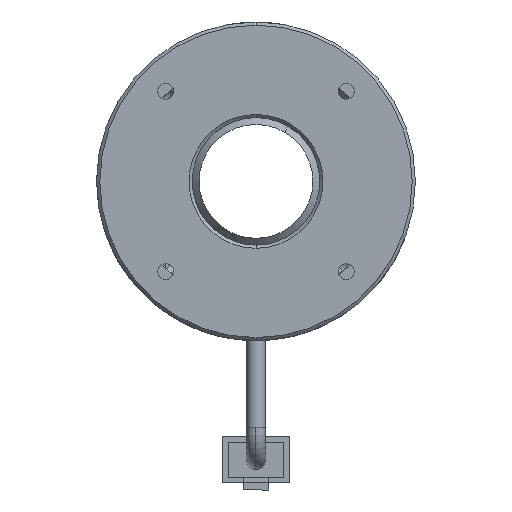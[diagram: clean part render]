
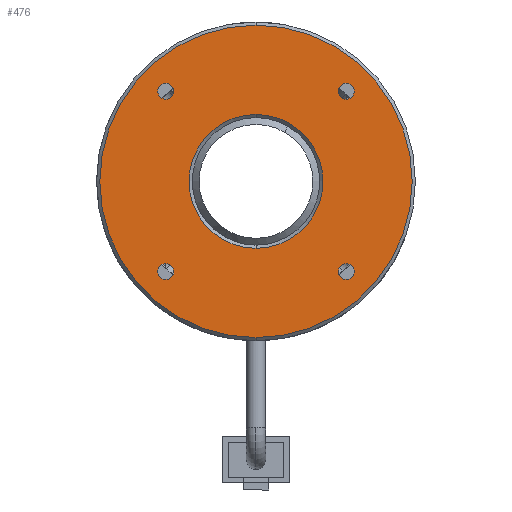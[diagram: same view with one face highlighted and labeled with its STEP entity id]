
A CAD part, front view. The second image highlights one B-rep face of the part: STEP entity #476.
In plain terms, the highlighted planar face has unit normal (0, -1, 0).
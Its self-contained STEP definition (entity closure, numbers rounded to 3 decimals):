
#56 = CARTESIAN_POINT ( 'NONE',  ( 14.142, 0., -14.142 ) ) ;
#191 = CARTESIAN_POINT ( 'NONE',  ( 0., 0., 0. ) ) ;
#246 = AXIS2_PLACEMENT_3D ( 'NONE', #9393, #1391, #7992 ) ;
#375 = AXIS2_PLACEMENT_3D ( 'NONE', #8117, #6556, #3749 ) ;
#403 = VERTEX_POINT ( 'NONE', #6155 ) ;
#476 = ADVANCED_FACE ( 'NONE', ( #9096, #6915, #3153, #7024, #7137, #3037 ), #2455, .F. ) ;
#527 = EDGE_LOOP ( 'NONE', ( #6062, #5166 ) ) ;
#541 = EDGE_CURVE ( 'NONE', #3250, #6567, #2721, .T. ) ;
#723 = EDGE_CURVE ( 'NONE', #403, #7242, #1722, .T. ) ;
#853 = CARTESIAN_POINT ( 'NONE',  ( 14.142, 0., -14.142 ) ) ;
#884 = DIRECTION ( 'NONE',  ( 0., 0., -1. ) ) ;
#957 = DIRECTION ( 'NONE',  ( 0., 0., 1. ) ) ;
#977 = DIRECTION ( 'NONE',  ( 0., -1., 0. ) ) ;
#1050 = CARTESIAN_POINT ( 'NONE',  ( -14.142, 0., 14.142 ) ) ;
#1061 = DIRECTION ( 'NONE',  ( 0., 0., -1. ) ) ;
#1278 = CIRCLE ( 'NONE', #3582, 10.5 ) ;
#1391 = DIRECTION ( 'NONE',  ( 0., -1., 0. ) ) ;
#1392 = CARTESIAN_POINT ( 'NONE',  ( 14.142, 0., 12.892 ) ) ;
#1404 = VERTEX_POINT ( 'NONE', #8314 ) ;
#1561 = CARTESIAN_POINT ( 'NONE',  ( 14.142, 0., -12.892 ) ) ;
#1574 = VERTEX_POINT ( 'NONE', #8534 ) ;
#1597 = CIRCLE ( 'NONE', #6235, 1.25 ) ;
#1600 = EDGE_LOOP ( 'NONE', ( #4186, #1640 ) ) ;
#1607 = AXIS2_PLACEMENT_3D ( 'NONE', #1746, #7517, #8268 ) ;
#1640 = ORIENTED_EDGE ( 'NONE', *, *, #5253, .T. ) ;
#1665 = CIRCLE ( 'NONE', #2184, 1.25 ) ;
#1722 = CIRCLE ( 'NONE', #5463, 24.5 ) ;
#1746 = CARTESIAN_POINT ( 'NONE',  ( 10., 0., 0. ) ) ;
#2184 = AXIS2_PLACEMENT_3D ( 'NONE', #853, #8180, #7378 ) ;
#2246 = EDGE_CURVE ( 'NONE', #4542, #4573, #5402, .T. ) ;
#2369 = CIRCLE ( 'NONE', #246, 1.25 ) ;
#2416 = DIRECTION ( 'NONE',  ( 0., 1., 0. ) ) ;
#2455 = PLANE ( 'NONE',  #1607 ) ;
#2576 = CARTESIAN_POINT ( 'NONE',  ( 14.142, 0., 14.142 ) ) ;
#2632 = ORIENTED_EDGE ( 'NONE', *, *, #3190, .F. ) ;
#2675 = ORIENTED_EDGE ( 'NONE', *, *, #6755, .F. ) ;
#2721 = CIRCLE ( 'NONE', #4486, 1.25 ) ;
#2784 = DIRECTION ( 'NONE',  ( 0., 0., 1. ) ) ;
#2786 = EDGE_LOOP ( 'NONE', ( #2632, #2675 ) ) ;
#2810 = DIRECTION ( 'NONE',  ( 0., -1., 0. ) ) ;
#2860 = EDGE_CURVE ( 'NONE', #6567, #3250, #9150, .T. ) ;
#3031 = DIRECTION ( 'NONE',  ( 0., -1., 0. ) ) ;
#3037 = FACE_BOUND ( 'NONE', #2786, .T. ) ;
#3153 = FACE_BOUND ( 'NONE', #4620, .T. ) ;
#3190 = EDGE_CURVE ( 'NONE', #9088, #3367, #1665, .T. ) ;
#3216 = CARTESIAN_POINT ( 'NONE',  ( -14.142, 0., -12.892 ) ) ;
#3230 = DIRECTION ( 'NONE',  ( 0., 0., -1. ) ) ;
#3250 = VERTEX_POINT ( 'NONE', #9129 ) ;
#3311 = CARTESIAN_POINT ( 'NONE',  ( 0., 0., 24.5 ) ) ;
#3367 = VERTEX_POINT ( 'NONE', #1561 ) ;
#3582 = AXIS2_PLACEMENT_3D ( 'NONE', #191, #5285, #957 ) ;
#3616 = CARTESIAN_POINT ( 'NONE',  ( 14.142, 0., -15.392 ) ) ;
#3653 = VERTEX_POINT ( 'NONE', #8857 ) ;
#3745 = CIRCLE ( 'NONE', #8436, 24.5 ) ;
#3749 = DIRECTION ( 'NONE',  ( 0., 0., -1. ) ) ;
#3797 = CARTESIAN_POINT ( 'NONE',  ( 0., 0., 0. ) ) ;
#3903 = CARTESIAN_POINT ( 'NONE',  ( -14.142, 0., -14.142 ) ) ;
#3935 = VERTEX_POINT ( 'NONE', #3216 ) ;
#3978 = CIRCLE ( 'NONE', #375, 1.25 ) ;
#3984 = DIRECTION ( 'NONE',  ( 0., 0., 1. ) ) ;
#4039 = EDGE_LOOP ( 'NONE', ( #9188, #7154 ) ) ;
#4074 = DIRECTION ( 'NONE',  ( 0., 0., -1. ) ) ;
#4186 = ORIENTED_EDGE ( 'NONE', *, *, #8036, .T. ) ;
#4196 = EDGE_CURVE ( 'NONE', #3935, #3653, #3978, .T. ) ;
#4214 = AXIS2_PLACEMENT_3D ( 'NONE', #3797, #2416, #3984 ) ;
#4346 = EDGE_LOOP ( 'NONE', ( #6099, #6734 ) ) ;
#4486 = AXIS2_PLACEMENT_3D ( 'NONE', #2576, #4749, #3230 ) ;
#4542 = VERTEX_POINT ( 'NONE', #7493 ) ;
#4573 = VERTEX_POINT ( 'NONE', #6691 ) ;
#4620 = EDGE_LOOP ( 'NONE', ( #7214, #7293 ) ) ;
#4728 = DIRECTION ( 'NONE',  ( 0., -1., 0. ) ) ;
#4749 = DIRECTION ( 'NONE',  ( 0., -1., 0. ) ) ;
#4844 = EDGE_CURVE ( 'NONE', #7242, #403, #3745, .T. ) ;
#5166 = ORIENTED_EDGE ( 'NONE', *, *, #723, .T. ) ;
#5253 = EDGE_CURVE ( 'NONE', #1404, #1574, #1278, .T. ) ;
#5285 = DIRECTION ( 'NONE',  ( 0., 1., 0. ) ) ;
#5402 = CIRCLE ( 'NONE', #7017, 1.25 ) ;
#5463 = AXIS2_PLACEMENT_3D ( 'NONE', #7188, #9395, #2784 ) ;
#5854 = AXIS2_PLACEMENT_3D ( 'NONE', #56, #2810, #884 ) ;
#6062 = ORIENTED_EDGE ( 'NONE', *, *, #4844, .T. ) ;
#6099 = ORIENTED_EDGE ( 'NONE', *, *, #6935, .F. ) ;
#6155 = CARTESIAN_POINT ( 'NONE',  ( 0., 0., -24.5 ) ) ;
#6235 = AXIS2_PLACEMENT_3D ( 'NONE', #3903, #4728, #1061 ) ;
#6556 = DIRECTION ( 'NONE',  ( 0., -1., 0. ) ) ;
#6567 = VERTEX_POINT ( 'NONE', #1392 ) ;
#6579 = CARTESIAN_POINT ( 'NONE',  ( 0., 0., 0. ) ) ;
#6691 = CARTESIAN_POINT ( 'NONE',  ( -14.142, 0., 15.392 ) ) ;
#6734 = ORIENTED_EDGE ( 'NONE', *, *, #4196, .F. ) ;
#6755 = EDGE_CURVE ( 'NONE', #3367, #9088, #8514, .T. ) ;
#6768 = DIRECTION ( 'NONE',  ( 0., 0., -1. ) ) ;
#6915 = FACE_BOUND ( 'NONE', #1600, .T. ) ;
#6935 = EDGE_CURVE ( 'NONE', #3653, #3935, #1597, .T. ) ;
#7017 = AXIS2_PLACEMENT_3D ( 'NONE', #1050, #977, #6768 ) ;
#7024 = FACE_BOUND ( 'NONE', #4039, .T. ) ;
#7068 = AXIS2_PLACEMENT_3D ( 'NONE', #7604, #7727, #4074 ) ;
#7137 = FACE_BOUND ( 'NONE', #4346, .T. ) ;
#7154 = ORIENTED_EDGE ( 'NONE', *, *, #7322, .F. ) ;
#7188 = CARTESIAN_POINT ( 'NONE',  ( 0., 0., 0. ) ) ;
#7214 = ORIENTED_EDGE ( 'NONE', *, *, #2860, .F. ) ;
#7242 = VERTEX_POINT ( 'NONE', #3311 ) ;
#7293 = ORIENTED_EDGE ( 'NONE', *, *, #541, .F. ) ;
#7322 = EDGE_CURVE ( 'NONE', #4573, #4542, #2369, .T. ) ;
#7378 = DIRECTION ( 'NONE',  ( 0., 0., -1. ) ) ;
#7493 = CARTESIAN_POINT ( 'NONE',  ( -14.142, 0., 12.892 ) ) ;
#7517 = DIRECTION ( 'NONE',  ( 0., 1., 0. ) ) ;
#7604 = CARTESIAN_POINT ( 'NONE',  ( 14.142, 0., 14.142 ) ) ;
#7727 = DIRECTION ( 'NONE',  ( 0., -1., 0. ) ) ;
#7992 = DIRECTION ( 'NONE',  ( 0., 0., -1. ) ) ;
#8036 = EDGE_CURVE ( 'NONE', #1574, #1404, #8259, .T. ) ;
#8117 = CARTESIAN_POINT ( 'NONE',  ( -14.142, 0., -14.142 ) ) ;
#8180 = DIRECTION ( 'NONE',  ( 0., -1., 0. ) ) ;
#8259 = CIRCLE ( 'NONE', #4214, 10.5 ) ;
#8268 = DIRECTION ( 'NONE',  ( 0., 0., 1. ) ) ;
#8314 = CARTESIAN_POINT ( 'NONE',  ( 0., 0., 10.5 ) ) ;
#8436 = AXIS2_PLACEMENT_3D ( 'NONE', #6579, #3031, #8853 ) ;
#8514 = CIRCLE ( 'NONE', #5854, 1.25 ) ;
#8534 = CARTESIAN_POINT ( 'NONE',  ( 0., 0., -10.5 ) ) ;
#8853 = DIRECTION ( 'NONE',  ( 0., 0., 1. ) ) ;
#8857 = CARTESIAN_POINT ( 'NONE',  ( -14.142, 0., -15.392 ) ) ;
#9088 = VERTEX_POINT ( 'NONE', #3616 ) ;
#9096 = FACE_OUTER_BOUND ( 'NONE', #527, .T. ) ;
#9129 = CARTESIAN_POINT ( 'NONE',  ( 14.142, 0., 15.392 ) ) ;
#9150 = CIRCLE ( 'NONE', #7068, 1.25 ) ;
#9188 = ORIENTED_EDGE ( 'NONE', *, *, #2246, .F. ) ;
#9393 = CARTESIAN_POINT ( 'NONE',  ( -14.142, 0., 14.142 ) ) ;
#9395 = DIRECTION ( 'NONE',  ( 0., -1., 0. ) ) ;
